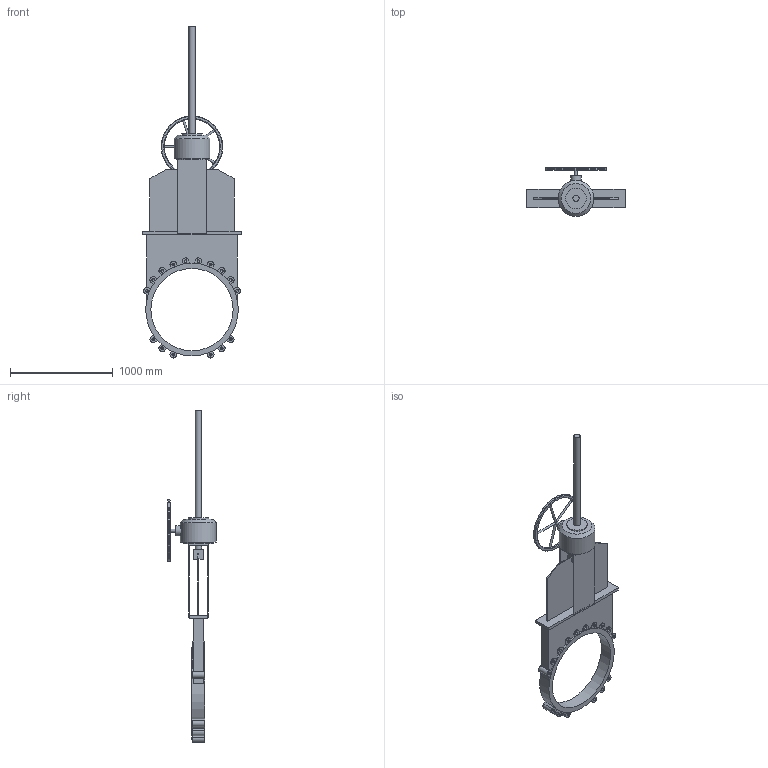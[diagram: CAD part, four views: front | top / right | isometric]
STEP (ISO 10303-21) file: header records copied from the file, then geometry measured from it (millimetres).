
FILE_DESCRIPTION(('STEP AP203'), '1');
FILE_NAME('Çàäâèæêà øèáåðíàÿ K51GV DN800 ðåäóêòîð+âûäâèæíîé øïèíäåëü', '', ('UNSPECIFIED'), ('UNSPECIFIED'), 'ASCON STEP Converter 1.6', 'ASCON Math Kernel', '');
FILE_SCHEMA(('CONFIG_CONTROL_DESIGN'));
Length unit declared in the file: millimetre
Bounding box: 960 x 475 x 3231.31 mm (x, y, z)
Volume: 94182000.5 mm3; surface area: 4887217.1 mm2
Topology: 1 solids, 1 shells, 262 faces, 704 edges, 447 vertices
Faces by surface type: plane 140, cylinder 81, cone 33, torus 8
Full cylindrical faces by diameter (mm): 20 x5, 26.211 x32, 30 x1, 60 x2, 100 x1, 200 x1, 300 x1, 350 x1, 600 x1, 800 x1, 901 x1
Entity records: 11838 total; most frequent: CARTESIAN_POINT 3593, DIRECTION 1290, ORIENTED_EDGE 1176, EDGE_CURVE 588, AXIS2_PLACEMENT_3D 486, VERTEX_POINT 415, EDGE_LOOP 365, LINE 318
